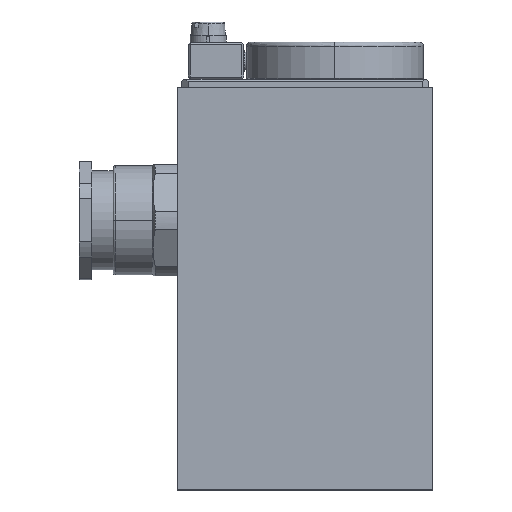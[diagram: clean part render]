
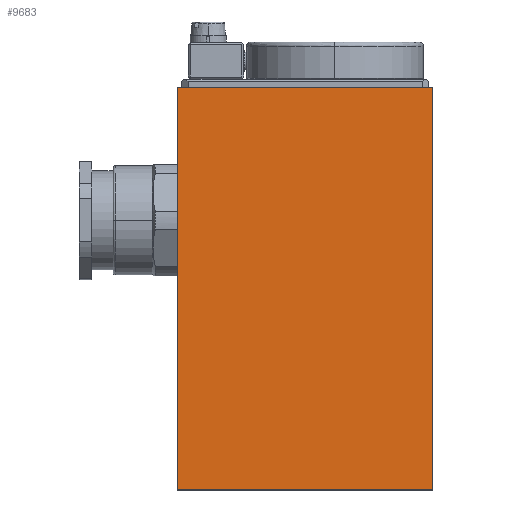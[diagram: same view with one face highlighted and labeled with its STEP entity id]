
A CAD part, top view. The second image highlights one B-rep face of the part: STEP entity #9683.
In plain terms, the highlighted planar face has unit normal (0, 0, 1).
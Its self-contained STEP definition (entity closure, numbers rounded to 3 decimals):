
#467 = VERTEX_POINT ( 'NONE', #2985 ) ;
#1025 = DIRECTION ( 'NONE',  ( 0., 1., 0. ) ) ;
#2502 = VECTOR ( 'NONE', #14577, 1000. ) ;
#2575 = VERTEX_POINT ( 'NONE', #14771 ) ;
#2841 = LINE ( 'NONE', #9909, #18401 ) ;
#2985 = CARTESIAN_POINT ( 'NONE',  ( -1., -44.4, 23.5 ) ) ;
#3188 = VECTOR ( 'NONE', #1025, 1000. ) ;
#3325 = EDGE_CURVE ( 'NONE', #7785, #19083, #3722, .T. ) ;
#3722 = LINE ( 'NONE', #18733, #18818 ) ;
#4799 = PLANE ( 'NONE',  #11059 ) ;
#7785 = VERTEX_POINT ( 'NONE', #9254 ) ;
#7996 = ORIENTED_EDGE ( 'NONE', *, *, #9294, .F. ) ;
#8017 = FACE_OUTER_BOUND ( 'NONE', #10085, .T. ) ;
#8239 = DIRECTION ( 'NONE',  ( -1., 0., 0. ) ) ;
#9254 = CARTESIAN_POINT ( 'NONE',  ( -1., 53.4, 23.5 ) ) ;
#9294 = EDGE_CURVE ( 'NONE', #2575, #467, #2841, .T. ) ;
#9337 = LINE ( 'NONE', #16036, #2502 ) ;
#9683 = ADVANCED_FACE ( 'NONE', ( #8017 ), #4799, .F. ) ;
#9909 = CARTESIAN_POINT ( 'NONE',  ( 61., -44.4, 23.5 ) ) ;
#10085 = EDGE_LOOP ( 'NONE', ( #14728, #16613, #11830, #7996 ) ) ;
#10858 = CARTESIAN_POINT ( 'NONE',  ( 61., 53.4, 23.5 ) ) ;
#10913 = DIRECTION ( 'NONE',  ( 0., 1., 0. ) ) ;
#11059 = AXIS2_PLACEMENT_3D ( 'NONE', #10858, #13858, #10913 ) ;
#11685 = LINE ( 'NONE', #16267, #3188 ) ;
#11830 = ORIENTED_EDGE ( 'NONE', *, *, #13485, .F. ) ;
#12360 = CARTESIAN_POINT ( 'NONE',  ( 61., 53.4, 23.5 ) ) ;
#13485 = EDGE_CURVE ( 'NONE', #467, #7785, #11685, .T. ) ;
#13858 = DIRECTION ( 'NONE',  ( 0., 0., -1. ) ) ;
#13943 = DIRECTION ( 'NONE',  ( 1., 0., 0. ) ) ;
#14097 = EDGE_CURVE ( 'NONE', #19083, #2575, #9337, .T. ) ;
#14577 = DIRECTION ( 'NONE',  ( 0., -1., 0. ) ) ;
#14728 = ORIENTED_EDGE ( 'NONE', *, *, #14097, .F. ) ;
#14771 = CARTESIAN_POINT ( 'NONE',  ( 61., -44.4, 23.5 ) ) ;
#16036 = CARTESIAN_POINT ( 'NONE',  ( 61., 53.4, 23.5 ) ) ;
#16267 = CARTESIAN_POINT ( 'NONE',  ( -1., 53.4, 23.5 ) ) ;
#16613 = ORIENTED_EDGE ( 'NONE', *, *, #3325, .F. ) ;
#18401 = VECTOR ( 'NONE', #8239, 1000. ) ;
#18733 = CARTESIAN_POINT ( 'NONE',  ( 61., 53.4, 23.5 ) ) ;
#18818 = VECTOR ( 'NONE', #13943, 1000. ) ;
#19083 = VERTEX_POINT ( 'NONE', #12360 ) ;
